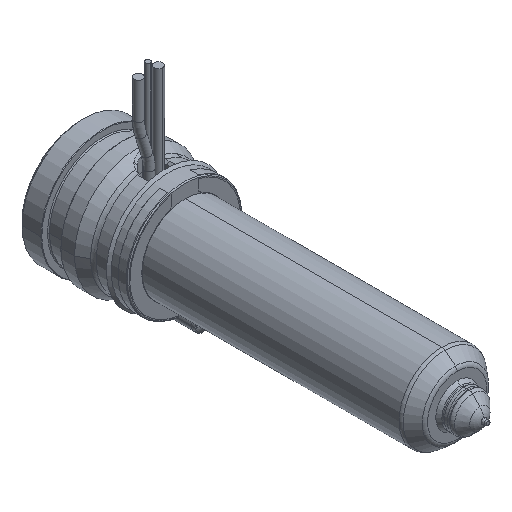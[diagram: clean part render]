
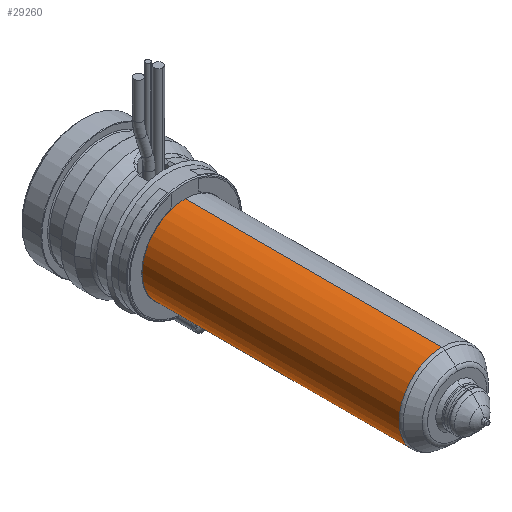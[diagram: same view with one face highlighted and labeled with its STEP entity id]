
A CAD part, isometric view. The second image highlights one B-rep face of the part: STEP entity #29260.
In plain terms, the highlighted cylindrical face has radius 9 mm (diameter 18 mm), a partial arc.
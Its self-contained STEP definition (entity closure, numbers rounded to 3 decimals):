
#28643=CARTESIAN_POINT('',(0.,-75.836,0.));
#28644=DIRECTION('',(0.,-1.,0.));
#28645=DIRECTION('',(0.,0.,1.));
#28646=AXIS2_PLACEMENT_3D('',#28643,#28644,#28645);
#28651=CARTESIAN_POINT('',(0.,-22.,0.));
#28652=DIRECTION('',(0.,-1.,0.));
#28653=DIRECTION('',(0.,0.,1.));
#28654=AXIS2_PLACEMENT_3D('',#28651,#28652,#28653);
#28659=DIRECTION('',(0.,-1.,0.));
#28660=VECTOR('',#28659,53.836);
#28661=CARTESIAN_POINT('',(0.,-22.,9.));
#28662=LINE('',#28661,#28660);
#28674=DIRECTION('',(0.,-1.,0.));
#28675=VECTOR('',#28674,53.836);
#28676=CARTESIAN_POINT('',(0.,-22.,-9.));
#28677=LINE('',#28676,#28675);
#28877=CARTESIAN_POINT('',(0.,-22.,9.));
#28878=CARTESIAN_POINT('',(0.,-75.836,9.));
#28879=VERTEX_POINT('',#28877);
#28880=VERTEX_POINT('',#28878);
#28903=CARTESIAN_POINT('',(0.,-22.,-9.));
#28904=CARTESIAN_POINT('',(0.,-75.836,-9.));
#28905=VERTEX_POINT('',#28903);
#28906=VERTEX_POINT('',#28904);
#29246=CARTESIAN_POINT('',(0.,-14.625,0.));
#29247=DIRECTION('',(0.,-1.,0.));
#29248=DIRECTION('',(0.,0.,1.));
#29249=AXIS2_PLACEMENT_3D('',#29246,#29247,#29248);
#29250=CYLINDRICAL_SURFACE('',#29249,9.);
#29252=ORIENTED_EDGE('',*,*,#29251,.T.);
#29253=ORIENTED_EDGE('',*,*,#29241,.T.);
#29255=ORIENTED_EDGE('',*,*,#29254,.F.);
#29257=ORIENTED_EDGE('',*,*,#29256,.F.);
#29258=EDGE_LOOP('',(#29252,#29253,#29255,#29257));
#29259=FACE_OUTER_BOUND('',#29258,.F.);
#29260=ADVANCED_FACE('',(#29259),#29250,.T.);
#28647=CIRCLE('',#28646,9.);
#28655=CIRCLE('',#28654,9.);
#29241=EDGE_CURVE('',#28880,#28906,#28647,.T.);
#29251=EDGE_CURVE('',#28879,#28880,#28662,.T.);
#29254=EDGE_CURVE('',#28905,#28906,#28677,.T.);
#29256=EDGE_CURVE('',#28879,#28905,#28655,.T.);
